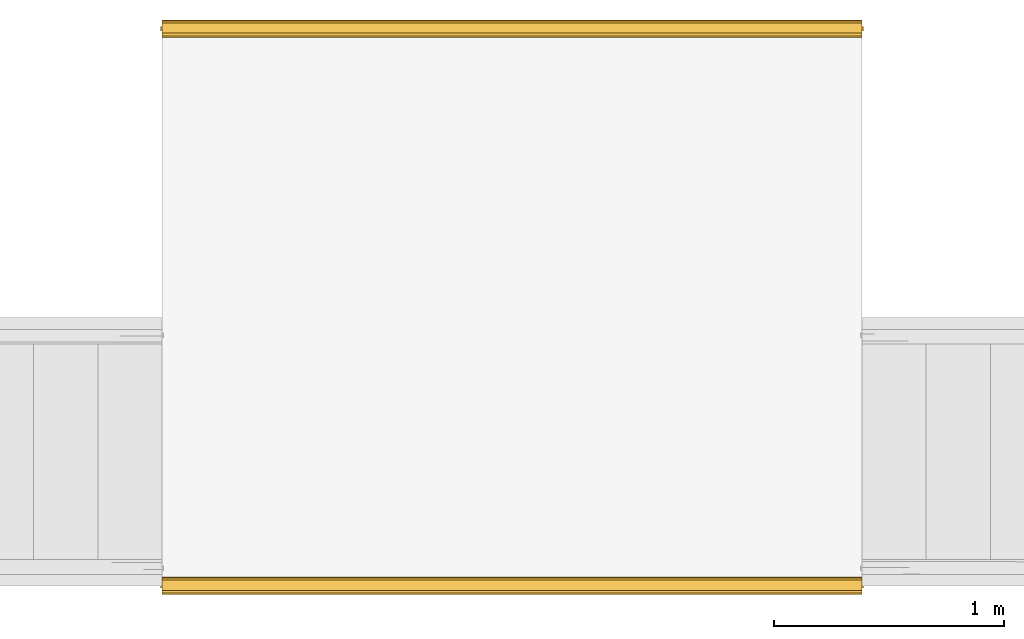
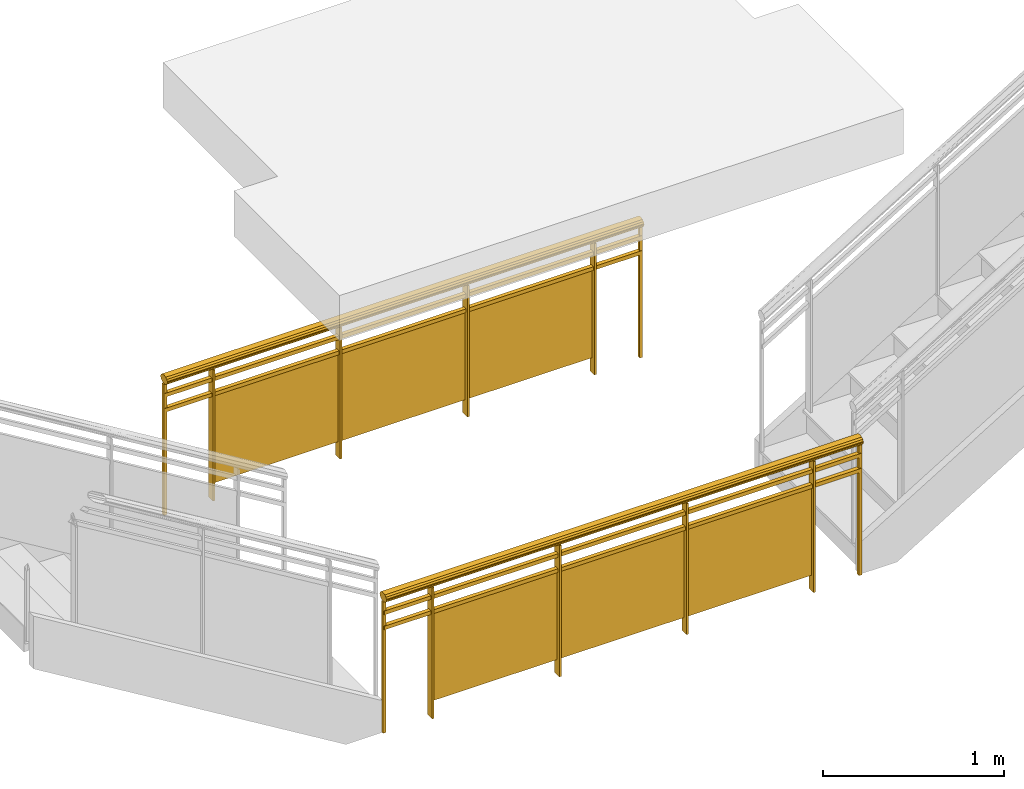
# One storey, part 2 of 4: 2 railings.
"""IFC2X3 building model written with IfcOpenShell, lengths in feet."""

from ifc_helpers import new_model, entity, si_unit, converted_unit, derived_unit, direction, frame, frame_2d, origin, origin_2d_with_axis, place, context, subcontext, project, spatial, polyline, rectangle, outline, extrude, material, material_list, element, save


model = new_model("IFC2X3")

# Units and contexts
model_context = context("Model", 3, precision=0.0001, world=origin(), true_north=direction((6.12303176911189e-17, 1.0)))
body_context = subcontext(model_context, "Body", "Model", "MODEL_VIEW")
ifc_project = project(units=[converted_unit("LENGTHUNIT", "FOOT", entity("IfcRatioMeasure", 0.3048), si_unit("LENGTHUNIT", "METRE"), dimensions=[1, 0, 0, 0, 0, 0, 0]), converted_unit("AREAUNIT", "SQUARE FOOT", entity("IfcRatioMeasure", 0.09290304), si_unit("AREAUNIT", "SQUARE_METRE"), dimensions=[2, 0, 0, 0, 0, 0, 0]), converted_unit("VOLUMEUNIT", "CUBIC FOOT", entity("IfcRatioMeasure", 0.028316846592), si_unit("VOLUMEUNIT", "CUBIC_METRE"), dimensions=[3, 0, 0, 0, 0, 0, 0]), converted_unit("PLANEANGLEUNIT", "DEGREE", entity("IfcRatioMeasure", 0.0174532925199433), si_unit("PLANEANGLEUNIT", "RADIAN"), dimensions=[0, 0, 0, 0, 0, 0, 0]), si_unit("MASSUNIT", "GRAM", prefix="KILO"), derived_unit("MASSDENSITYUNIT", [(si_unit("MASSUNIT", "GRAM", prefix="KILO"), 1), (si_unit("LENGTHUNIT", "METRE"), -3)]), si_unit("TIMEUNIT", "SECOND"), si_unit("FREQUENCYUNIT", "HERTZ"), si_unit("THERMODYNAMICTEMPERATUREUNIT", "DEGREE_CELSIUS"), derived_unit("THERMALTRANSMITTANCEUNIT", [(si_unit("MASSUNIT", "GRAM", prefix="KILO"), 1), (si_unit("THERMODYNAMICTEMPERATUREUNIT", "KELVIN"), -1), (si_unit("TIMEUNIT", "SECOND"), -3)]), derived_unit("VOLUMETRICFLOWRATEUNIT", [(si_unit("LENGTHUNIT", "METRE"), 3), (si_unit("TIMEUNIT", "SECOND"), -1)]), si_unit("ELECTRICCURRENTUNIT", "AMPERE"), si_unit("ELECTRICVOLTAGEUNIT", "VOLT"), si_unit("POWERUNIT", "WATT"), si_unit("FORCEUNIT", "NEWTON"), si_unit("ILLUMINANCEUNIT", "LUX"), si_unit("LUMINOUSFLUXUNIT", "LUMEN"), si_unit("LUMINOUSINTENSITYUNIT", "CANDELA"), derived_unit("USERDEFINED", [(si_unit("MASSUNIT", "GRAM", prefix="KILO"), -1), (si_unit("LENGTHUNIT", "METRE"), -2), (si_unit("TIMEUNIT", "SECOND"), 3), (si_unit("LUMINOUSFLUXUNIT", "LUMEN"), 1)]), derived_unit("LINEARVELOCITYUNIT", [(si_unit("LENGTHUNIT", "METRE"), 1), (si_unit("TIMEUNIT", "SECOND"), -1)]), si_unit("PRESSUREUNIT", "PASCAL"), derived_unit("USERDEFINED", [(si_unit("LENGTHUNIT", "METRE"), -2), (si_unit("MASSUNIT", "GRAM", prefix="KILO"), 1), (si_unit("TIMEUNIT", "SECOND"), -2)])], contexts=[model_context])

# Site, building, storey
site_placement = place(None, origin())
site = spatial("IfcSite", under=ifc_project, at=site_placement, Name="Default", CompositionType="ELEMENT")
building_placement = place(site_placement, origin())
building = spatial("IfcBuilding", under=site, at=building_placement, CompositionType="ELEMENT")
storey_placement = place(building_placement, frame((0.0, 0.0, 45.0)))
storey = spatial("IfcBuildingStorey", under=building, at=storey_placement, Name="L 8", CompositionType="ELEMENT", Elevation=44.9999999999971)

# Railings
ifc_material_1 = material(Name="Glass")
ifc_material_2 = material(Name="alum - color")
ifc_material_list_1 = material_list([ifc_material_1, ifc_material_2])
railing_1_placement = place(storey_placement, origin())
element("IfcRailing", 1, at=railing_1_placement, inside=storey, material=ifc_material_list_1, Name="Railing:Glass Panel - Bottom Fill", ObjectType="Railing:Glass Panel - Bottom Fill", PredefinedType="NOTDEFINED", context=body_context, shape_type="SweptSolid", body=[
    extrude(rectangle(XDim=0.0416666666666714, YDim=0.166666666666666, at=frame_2d((0.0, 8.88178419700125e-16), x_axis=(1.0, 0.0))), frame((-29.991829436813, -15.3369745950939, 0.0)), (0.0, 0.0, 1.0), 2.90577041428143),
    extrude(rectangle(XDim=0.0208333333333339, YDim=2.66666666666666, at=frame_2d((-8.88178419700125e-16, -1.77635683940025e-15), x_axis=(1.0, 0.0))), frame((-31.3251627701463, -15.3259504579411, 0.333333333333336), z_axis=(0.0, 0.0, 1.0), x_axis=(0.0, -1.0, 0.0)), (0.0, 0.0, 1.0), 1.95833333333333),
    extrude(rectangle(XDim=0.0416666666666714, YDim=0.166666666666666, at=frame_2d((0.0, 8.88178419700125e-16), x_axis=(1.0, 0.0))), frame((-32.6584961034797, -15.3369745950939, 0.0)), (0.0, 0.0, 1.0), 2.90577041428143),
    extrude(rectangle(XDim=0.0208333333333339, YDim=2.66666666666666, at=frame_2d((-8.88178419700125e-16, 0.0), x_axis=(1.0, 0.0))), frame((-33.991829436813, -15.3259504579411, 0.333333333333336), z_axis=(0.0, 0.0, 1.0), x_axis=(0.0, -1.0, 0.0)), (0.0, 0.0, 1.0), 1.95833333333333),
    extrude(rectangle(XDim=0.0416666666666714, YDim=0.166666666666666, at=frame_2d((0.0, 8.88178419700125e-16), x_axis=(1.0, 0.0))), frame((-35.3251627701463, -15.3369745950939, 0.0)), (0.0, 0.0, 1.0), 2.90577041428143),
    extrude(rectangle(XDim=0.0208333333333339, YDim=2.66666666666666, at=frame_2d((-8.88178419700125e-16, 0.0), x_axis=(1.0, 0.0))), frame((-36.6584961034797, -15.3259504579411, 0.333333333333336), z_axis=(0.0, 0.0, 1.0), x_axis=(0.0, -1.0, 0.0)), (0.0, 0.0, 1.0), 1.95833333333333),
    extrude(rectangle(XDim=0.0416666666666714, YDim=0.166666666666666, at=frame_2d((0.0, 8.88178419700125e-16), x_axis=(1.0, 0.0))), frame((-37.991829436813, -15.3369745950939, 0.0)), (0.0, 0.0, 1.0), 2.90577041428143),
    extrude(rectangle(XDim=0.0625, YDim=0.0625, at=origin_2d_with_axis()), frame((-29.0022461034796, -15.3369745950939, 0.0)), (0.0, 0.0, 1.0), 2.90577041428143),
    extrude(rectangle(XDim=0.0625, YDim=0.0625, at=origin_2d_with_axis()), frame((-38.9814127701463, -15.3369745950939, 0.0)), (0.0, 0.0, 1.0), 2.90577041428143),
    extrude(rectangle(XDim=10.0, YDim=0.0833333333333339, at=frame_2d((0.0, -8.88178419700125e-16), x_axis=(1.0, 0.0))), frame((-33.991829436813, -15.3369745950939, 2.625)), (0.0, 0.0, 1.0), 0.0833333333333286),
    extrude(rectangle(XDim=10.0, YDim=0.0833333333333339, at=frame_2d((0.0, -8.88178419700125e-16), x_axis=(1.0, 0.0))), frame((-33.991829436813, -15.3369745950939, 2.29166666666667)), (0.0, 0.0, 1.0), 0.0833333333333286),
    extrude(outline(polyline([(-0.0340837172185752, -0.120263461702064), (0.0055496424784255, -0.120263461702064), (0.0442234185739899, -0.0994688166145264), (0.0752505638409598, -0.0614751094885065), (0.0932662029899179, -0.0128517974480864), (0.0951552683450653, 0.0379937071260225), (0.0805911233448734, 0.0822697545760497), (0.0520920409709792, 0.112320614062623), (0.0340837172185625, 0.120263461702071), (-0.0055496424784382, 0.120263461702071), (-0.0442234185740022, 0.0994688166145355), (-0.0752505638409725, 0.0614751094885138), (-0.0932662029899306, 0.0128517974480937), (-0.095155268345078, -0.0379937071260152), (-0.0805911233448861, -0.0822697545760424), (-0.0520920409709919, -0.112320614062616), (-0.0340837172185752, -0.120263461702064)])), frame((-38.991829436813, -15.3369745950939, 3.0), z_axis=(1.0, 0.0, 0.0), x_axis=(0.0, 0.272669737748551, -0.962107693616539)), (0.0, 0.0, 1.0), 10.0),
])
ifc_material_list_2 = material_list([ifc_material_1, ifc_material_2])
railing_2_placement = place(storey_placement, origin())
element("IfcRailing", 2, at=railing_2_placement, inside=storey, material=ifc_material_list_2, Name="Railing:Glass Panel - Bottom Fill", ObjectType="Railing:Glass Panel - Bottom Fill", PredefinedType="NOTDEFINED", context=body_context, shape_type="SweptSolid", body=[
    extrude(rectangle(XDim=0.0416666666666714, YDim=0.166666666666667, at=frame_2d((0.0, 4.44089209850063e-16), x_axis=(1.0, 0.0))), frame((-29.991829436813, -7.37673740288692, 0.0)), (0.0, 0.0, 1.0), 2.90577041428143),
    extrude(rectangle(XDim=0.020833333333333, YDim=2.66666666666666, at=frame_2d((-4.44089209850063e-16, -1.77635683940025e-15), x_axis=(1.0, 0.0))), frame((-31.3251627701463, -7.36571326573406, 0.333333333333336), z_axis=(0.0, 0.0, 1.0), x_axis=(0.0, -1.0, 0.0)), (0.0, 0.0, 1.0), 1.95833333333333),
    extrude(rectangle(XDim=0.0416666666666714, YDim=0.166666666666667, at=frame_2d((0.0, 4.44089209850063e-16), x_axis=(1.0, 0.0))), frame((-32.6584961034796, -7.37673740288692, 0.0)), (0.0, 0.0, 1.0), 2.90577041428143),
    extrude(rectangle(XDim=0.020833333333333, YDim=2.66666666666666, at=frame_2d((-4.44089209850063e-16, 0.0), x_axis=(1.0, 0.0))), frame((-33.991829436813, -7.36571326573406, 0.333333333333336), z_axis=(0.0, 0.0, 1.0), x_axis=(0.0, -1.0, 0.0)), (0.0, 0.0, 1.0), 1.95833333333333),
    extrude(rectangle(XDim=0.0416666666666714, YDim=0.166666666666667, at=frame_2d((0.0, 4.44089209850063e-16), x_axis=(1.0, 0.0))), frame((-35.3251627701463, -7.37673740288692, 0.0)), (0.0, 0.0, 1.0), 2.90577041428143),
    extrude(rectangle(XDim=0.020833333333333, YDim=2.66666666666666, at=frame_2d((-4.44089209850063e-16, 0.0), x_axis=(1.0, 0.0))), frame((-36.6584961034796, -7.36571326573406, 0.333333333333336), z_axis=(0.0, 0.0, 1.0), x_axis=(0.0, -1.0, 0.0)), (0.0, 0.0, 1.0), 1.95833333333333),
    extrude(rectangle(XDim=0.0416666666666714, YDim=0.166666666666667, at=frame_2d((0.0, 4.44089209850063e-16), x_axis=(1.0, 0.0))), frame((-37.991829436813, -7.37673740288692, 0.0)), (0.0, 0.0, 1.0), 2.90577041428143),
    extrude(rectangle(XDim=0.0625, YDim=0.0625, at=origin_2d_with_axis()), frame((-29.0022461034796, -7.37673740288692, 0.0)), (0.0, 0.0, 1.0), 2.90577041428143),
    extrude(rectangle(XDim=0.0625, YDim=0.0625, at=origin_2d_with_axis()), frame((-38.9814127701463, -7.37673740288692, 0.0)), (0.0, 0.0, 1.0), 2.90577041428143),
    extrude(rectangle(XDim=10.0, YDim=0.083333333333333, at=frame_2d((0.0, -4.44089209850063e-16), x_axis=(1.0, 0.0))), frame((-33.991829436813, -7.37673740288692, 2.625)), (0.0, 0.0, 1.0), 0.0833333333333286),
    extrude(rectangle(XDim=10.0, YDim=0.083333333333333, at=frame_2d((0.0, -4.44089209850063e-16), x_axis=(1.0, 0.0))), frame((-33.991829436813, -7.37673740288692, 2.29166666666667)), (0.0, 0.0, 1.0), 0.0833333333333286),
    extrude(outline(polyline([(-0.0340837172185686, -0.120263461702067), (0.00554964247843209, -0.120263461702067), (0.0442234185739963, -0.0994688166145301), (0.0752505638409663, -0.0614751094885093), (0.0932662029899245, -0.0128517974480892), (0.0951552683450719, 0.0379937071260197), (0.0805911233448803, 0.0822697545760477), (0.0520920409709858, 0.11232061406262), (0.0340837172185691, 0.120263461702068), (-0.00554964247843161, 0.120263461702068), (-0.0442234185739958, 0.0994688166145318), (-0.0752505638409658, 0.061475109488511), (-0.093266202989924, 0.0128517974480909), (-0.0951552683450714, -0.037993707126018), (-0.0805911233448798, -0.082269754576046), (-0.0520920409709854, -0.112320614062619), (-0.0340837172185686, -0.120263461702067)])), frame((-38.991829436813, -7.37673740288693, 3.0), z_axis=(1.0, 0.0, 0.0), x_axis=(0.0, 0.272669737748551, -0.962107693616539)), (0.0, 0.0, 1.0), 10.0),
])

save(model, "model.ifc")
